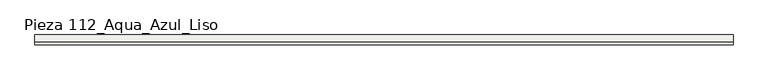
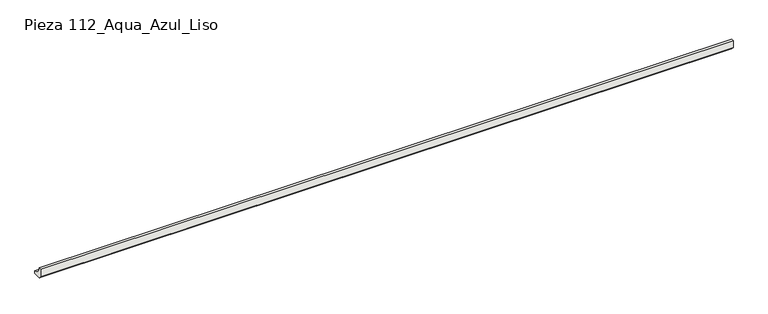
"""IFC4 building model written with IfcOpenShell, lengths in millimetres: slab geometry, ROSA GRES_112 : Pieza 112_Aqua_Azul_Liso."""

import ifcopenshell
import ifcopenshell.guid

model = None  # the IFC model being written
_history = None  # IfcOwnerHistory: only IFC2X3 demands one
_inside = {}  # id of a spatial element -> (the spatial element, [elements in it])
_under = {}  # id of a project, library or spatial element -> (it, [spatial elements below it])
_declared = {}  # id of a project -> (the project, [libraries it declares])
_typed = {}  # id of a type object -> (the type object, [elements of that type])
_made_of = {}  # id of a material, layer set ... -> (it, [elements and type objects made of it])


def new_model(schema):
    """Start an empty IFC model of exactly this schema.

    Asked for "IFC4X3", IfcOpenShell would pick the latest addendum, in which some entities
    have other attributes; the version numbers below select the first issue.
    IFC2X3 requires an IfcOwnerHistory on every rooted entity: one is made here for all.
    """
    global model, _history
    if schema == "IFC4X3":
        model = ifcopenshell.file(schema_version=(4, 3, 0, 0))
    else:
        model = ifcopenshell.file(schema=schema)
    _inside.clear()
    _under.clear()
    _declared.clear()
    _typed.clear()
    _made_of.clear()
    _history = None
    if model.schema == "IFC2X3":
        org = make("IfcOrganization", Name="unknown")
        user = make(
            "IfcPersonAndOrganization",
            ThePerson=make("IfcPerson", FamilyName="unknown"),
            TheOrganization=org,
        )
        app = make(
            "IfcApplication",
            ApplicationDeveloper=org,
            Version="unknown",
            ApplicationFullName="unknown",
            ApplicationIdentifier="unknown",
        )
        _history = make(
            "IfcOwnerHistory",
            OwningUser=user,
            OwningApplication=app,
            ChangeAction="ADDED",
            CreationDate=0,
        )
    return model


def make(cls, **values):
    """One entity of the class cls with the attributes given. An attribute that is None is left unset."""
    return model.create_entity(
        cls, **{name: value for name, value in values.items() if value is not None}
    )


def rooted(cls, **values):
    """An entity with a GlobalId (a new one), such as an element, a storey or a relation."""
    return make(cls, GlobalId=ifcopenshell.guid.new(), OwnerHistory=_history, **values)


def si_unit(unit_type, name, prefix=None):
    """IfcSIUnit, for example si_unit("LENGTHUNIT", "METRE", prefix="MILLI")."""
    return make("IfcSIUnit", UnitType=unit_type, Prefix=prefix, Name=name)


def assignment(units):
    """IfcUnitAssignment: the units of a project."""
    return None if units is None else make("IfcUnitAssignment", Units=units)


def point(xyz):
    """IfcCartesianPoint."""
    return None if xyz is None else make("IfcCartesianPoint", Coordinates=xyz)


def direction(xyz):
    """IfcDirection."""
    return None if xyz is None else make("IfcDirection", DirectionRatios=xyz)


def frame(location, z_axis=None, x_axis=None):
    """IfcAxis2Placement3D, a coordinate frame: its origin and axes. An axis left out is left unset."""
    return make(
        "IfcAxis2Placement3D",
        Location=point(location),
        Axis=direction(z_axis),
        RefDirection=direction(x_axis),
    )


def frame_2d(location, x_axis=None):
    """IfcAxis2Placement2D, a coordinate frame in the plane: its origin and x axis."""
    return make(
        "IfcAxis2Placement2D", Location=point(location), RefDirection=direction(x_axis)
    )


def origin():
    """The frame at (0, 0, 0) with its axes left unset."""
    return frame((0.0, 0.0, 0.0))


def place(relative_to, where):
    """IfcLocalPlacement: puts the frame where relative to a parent placement (None: the world)."""
    return make(
        "IfcLocalPlacement", PlacementRelTo=relative_to, RelativePlacement=where
    )


def context(
    kind, dimensions, precision=None, world=None, true_north=None, identifier=None
):
    """IfcGeometricRepresentationContext, for example the 3D "Model" context."""
    return make(
        "IfcGeometricRepresentationContext",
        ContextIdentifier=identifier,
        ContextType=kind,
        CoordinateSpaceDimension=dimensions,
        Precision=precision,
        WorldCoordinateSystem=world,
        TrueNorth=true_north,
    )


def project(units=None, contexts=None):
    """IfcProject with its units and contexts."""
    return rooted(
        "IfcProject",
        Name="project",
        RepresentationContexts=contexts,
        UnitsInContext=assignment(units),
    )


def spatial(cls, under=None, at=None, **own):
    """A site, building, storey or space (cls), placed at a placement, below another one or the project."""
    s = rooted(cls, ObjectPlacement=at, **own)
    if under is not None:
        _under.setdefault(under.id(), (under, []))[1].append(s)
    return s


def polyline(points):
    """IfcPolyline through the points."""
    return make("IfcPolyline", Points=[point(p) for p in points])


def circle_curve(where, radius):
    """IfcCircle in the frame where."""
    return make("IfcCircle", Position=where, Radius=radius)


def trimmed(basis, trim1, trim2, sense, master):
    """IfcTrimmedCurve: the piece of a basis curve between two trims."""
    return make(
        "IfcTrimmedCurve",
        BasisCurve=basis,
        Trim1=trim1,
        Trim2=trim2,
        SenseAgreement=sense,
        MasterRepresentation=master,
    )


def segment(curve, same_sense, transition):
    """IfcCompositeCurveSegment."""
    return make(
        "IfcCompositeCurveSegment",
        Transition=transition,
        SameSense=same_sense,
        ParentCurve=curve,
    )


def composite_curve(segments, self_intersect=None):
    """IfcCompositeCurve: segments joined end to end."""
    return make("IfcCompositeCurve", Segments=segments, SelfIntersect=self_intersect)


def outline(outer, holes=None, kind="AREA"):
    """IfcArbitraryClosedProfileDef: a profile drawn as a closed curve; with holes, ...WithVoids."""
    if holes is None:
        return make("IfcArbitraryClosedProfileDef", ProfileType=kind, OuterCurve=outer)
    return make(
        "IfcArbitraryProfileDefWithVoids",
        ProfileType=kind,
        OuterCurve=outer,
        InnerCurves=holes,
    )


def extrude(swept, where, along, depth):
    """IfcExtrudedAreaSolid: the profile swept, set in the frame where, extruded along a direction by depth."""
    return make(
        "IfcExtrudedAreaSolid",
        SweptArea=swept,
        Position=where,
        ExtrudedDirection=direction(along),
        Depth=depth,
    )


def shape(context_of_items, identifier, shape_type, items):
    """IfcShapeRepresentation: the items that make up one representation, for example the "Body"."""
    return make(
        "IfcShapeRepresentation",
        ContextOfItems=context_of_items,
        RepresentationIdentifier=identifier,
        RepresentationType=shape_type,
        Items=items,
    )


def source(mapping_origin, context_of_items, identifier, shape_type, items):
    """IfcRepresentationMap: a shape defined once, which mapped items show again and again."""
    return make(
        "IfcRepresentationMap",
        MappingOrigin=mapping_origin,
        MappedRepresentation=shape(context_of_items, identifier, shape_type, items),
    )


def transform(
    local_origin,
    x_axis=None,
    y_axis=None,
    z_axis=None,
    scale=None,
    scale2=None,
    scale3=None,
    uniform=True,
):
    """IfcCartesianTransformationOperator3D, or its non-uniform kind. x_axis, y_axis, z_axis: its Axis1, 2, 3."""
    if uniform:
        return make(
            "IfcCartesianTransformationOperator3D",
            Axis1=direction(x_axis),
            Axis2=direction(y_axis),
            LocalOrigin=point(local_origin),
            Scale=scale,
            Axis3=direction(z_axis),
        )
    return make(
        "IfcCartesianTransformationOperator3DnonUniform",
        Axis1=direction(x_axis),
        Axis2=direction(y_axis),
        LocalOrigin=point(local_origin),
        Scale=scale,
        Axis3=direction(z_axis),
        Scale2=scale2,
        Scale3=scale3,
    )


def mapped(mapping_source, mapping_target):
    """IfcMappedItem: shows the shape of a source again, moved by a transform."""
    return make(
        "IfcMappedItem", MappingSource=mapping_source, MappingTarget=mapping_target
    )


def made_of(thing, what):
    """Note that an element or type object is made of a material, layer set ...; save() writes the relation."""
    if what is not None:
        _made_of.setdefault(what.id(), (what, []))[1].append(thing)
    return thing


def element(
    cls,
    number,
    at=None,
    inside=None,
    cuts=None,
    type_object=None,
    material=None,
    context=None,
    identifier="Body",
    shape_type=None,
    held_by="IfcProductDefinitionShape",
    body=None,
    shapes=None,
    **own,
):
    """One element of the class cls, such as IfcWall. Its Tag is "e" and its number.

    at: its placement. inside: the storey or other place that contains it. cuts: it is an
    opening in that element (IfcRelVoidsElement). A single representation is given by context,
    identifier, shape_type and body (its items); several are given by shapes. held_by: the class
    of the entity that holds the representations. save() writes the other relations.
    """
    e = rooted(cls, Tag="e%d" % number, ObjectPlacement=at, **own)
    if body is not None:
        shapes = [shape(context, identifier, shape_type, body)]
    if shapes is not None:
        e.Representation = make(held_by, Representations=shapes)
    if inside is not None:
        _inside.setdefault(inside.id(), (inside, []))[1].append(e)
    if cuts is not None:
        rooted(
            "IfcRelVoidsElement", RelatingBuildingElement=cuts, RelatedOpeningElement=e
        )
    if type_object is not None:
        _typed.setdefault(type_object.id(), (type_object, []))[1].append(e)
    return made_of(e, material)


def aggregate(whole, parts):
    """IfcRelAggregates: a whole, such as a stair, and the parts it consists of."""
    return rooted("IfcRelAggregates", RelatingObject=whole, RelatedObjects=parts)


def save(model, path):
    """Write the relations noted so far, then the file.

    IfcRelAggregates (storeys below a building ...), IfcRelContainedInSpatialStructure (elements
    in a storey), IfcRelDefinesByType, IfcRelAssociatesMaterial and IfcRelDeclares: one each for
    every whole, place, type object, material and project.
    """
    for whole, parts in _under.values():
        aggregate(whole, parts)
    for where, things in _inside.values():
        rooted(
            "IfcRelContainedInSpatialStructure",
            RelatedElements=things,
            RelatingStructure=where,
        )
    for kind, things in _typed.values():
        rooted("IfcRelDefinesByType", RelatedObjects=things, RelatingType=kind)
    for what, things in _made_of.values():
        rooted("IfcRelAssociatesMaterial", RelatedObjects=things, RelatingMaterial=what)
    for by, libraries in _declared.values():
        rooted("IfcRelDeclares", RelatingContext=by, RelatedDefinitions=libraries)
    model.write(path)


def pieza_112_aqua_azul_liso_38c27576(model_context):
    return source(origin(), model_context, "Body", "SweptSolid", [
        extrude(outline(composite_curve([segment(polyline([(0.0, 8.7114978), (0.0, 40.0), (9.9734114, 40.0)]), True, "CONTINUOUS"), segment(trimmed(circle_curve(frame_2d((39.9955547, 39.9955547)), 30.0221435), [point((9.9734114, 40.0))], [point((40.0, 9.9734114))], True, "CARTESIAN"), True, "CONTINUOUS"), segment(polyline([(40.0, 9.9734114), (40.0, 0.0), (8.7114978, 0.0), (0.0, 8.7114978)]), True, "CONTINUOUS")], self_intersect=False)), frame((0.0, 0.0, 0.0), z_axis=(1.0, 0.0, 0.0), x_axis=(0.0, 1.0, 0.0)), (0.0, 0.0, 1.0), 2783.9791755),
    ])


if __name__ == "__main__":
    model = new_model("IFC4")
    model_context = context("Model", 3, world=origin())
    ifc_project = project(units=[si_unit("LENGTHUNIT", "METRE", prefix="MILLI")], contexts=[model_context])
    site = spatial("IfcSite", under=ifc_project)
    building = spatial("IfcBuilding", under=site)
    placement = place(None, origin())
    pieza_112_aqua_azul_liso_shape = pieza_112_aqua_azul_liso_38c27576(model_context)
    element("IfcSlab", 1, ObjectType="ROSA GRES_112 : Pieza 112_Aqua_Azul_Liso", at=placement, inside=building, context=model_context, shape_type="MappedRepresentation", body=[
        mapped(pieza_112_aqua_azul_liso_shape, transform((0.0, 0.0, 0.0), x_axis=(1.0, 0.0, 0.0), y_axis=(0.0, 1.0, 0.0), z_axis=(0.0, 0.0, 1.0))),
    ])
    save(model, "model.ifc")
